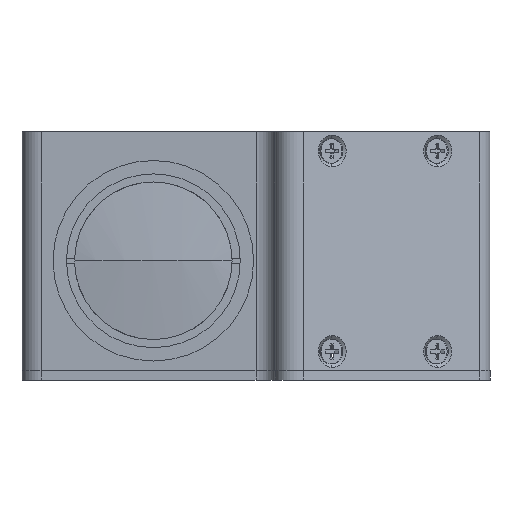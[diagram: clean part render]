
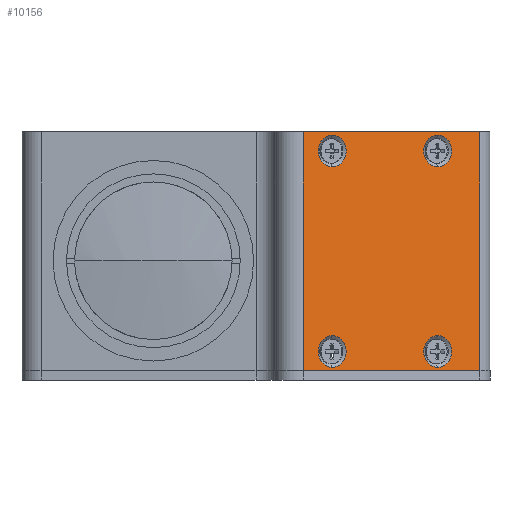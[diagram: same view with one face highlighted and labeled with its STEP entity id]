
A CAD part, left-side view. The second image highlights one B-rep face of the part: STEP entity #10156.
In plain terms, the highlighted planar face has unit normal (-0.883, -0.469, 0).
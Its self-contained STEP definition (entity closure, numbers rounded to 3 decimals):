
#142 = DIRECTION ( 'NONE',  ( -0.883, -0.469, 0. ) ) ;
#251 = CARTESIAN_POINT ( 'NONE',  ( 47.909, -37.475, -15.7 ) ) ;
#256 = VERTEX_POINT ( 'NONE', #5920 ) ;
#287 = DIRECTION ( 'NONE',  ( 0., 0., 1. ) ) ;
#793 = EDGE_LOOP ( 'NONE', ( #5437, #2643, #1070, #14541 ) ) ;
#1024 = LINE ( 'NONE', #7011, #6845 ) ;
#1053 = CARTESIAN_POINT ( 'NONE',  ( 59.646, -59.548, -22.3 ) ) ;
#1062 = CARTESIAN_POINT ( 'NONE',  ( 44.651, -31.348, 27. ) ) ;
#1070 = ORIENTED_EDGE ( 'NONE', *, *, #12367, .F. ) ;
#1165 = AXIS2_PLACEMENT_3D ( 'NONE', #6794, #14560, #7933 ) ;
#1501 = EDGE_CURVE ( 'NONE', #11396, #6871, #14543, .T. ) ;
#1873 = EDGE_CURVE ( 'NONE', #6871, #11396, #13341, .T. ) ;
#2071 = VERTEX_POINT ( 'NONE', #10510 ) ;
#2074 = FACE_BOUND ( 'NONE', #12156, .T. ) ;
#2490 = AXIS2_PLACEMENT_3D ( 'NONE', #6124, #13922, #7263 ) ;
#2643 = ORIENTED_EDGE ( 'NONE', *, *, #13052, .T. ) ;
#2861 = LINE ( 'NONE', #12365, #14570 ) ;
#3258 = CIRCLE ( 'NONE', #8563, 3.3 ) ;
#3827 = DIRECTION ( 'NONE',  ( -0.883, -0.469, 0. ) ) ;
#3882 = PLANE ( 'NONE',  #6388 ) ;
#3942 = VERTEX_POINT ( 'NONE', #12677 ) ;
#3985 = DIRECTION ( 'NONE',  ( 0., 0., 1. ) ) ;
#4013 = VERTEX_POINT ( 'NONE', #7230 ) ;
#4062 = VERTEX_POINT ( 'NONE', #5069 ) ;
#4090 = ORIENTED_EDGE ( 'NONE', *, *, #8780, .F. ) ;
#4156 = CARTESIAN_POINT ( 'NONE',  ( 59.646, -59.548, -15.7 ) ) ;
#4169 = DIRECTION ( 'NONE',  ( -0.883, -0.469, 0. ) ) ;
#4563 = CIRCLE ( 'NONE', #13795, 3.3 ) ;
#4654 = ORIENTED_EDGE ( 'NONE', *, *, #1873, .F. ) ;
#4664 = VERTEX_POINT ( 'NONE', #1053 ) ;
#4736 = CARTESIAN_POINT ( 'NONE',  ( 59.646, -59.548, 23. ) ) ;
#4903 = VECTOR ( 'NONE', #3985, 1000. ) ;
#4909 = EDGE_CURVE ( 'NONE', #4013, #8238, #3258, .T. ) ;
#5069 = CARTESIAN_POINT ( 'NONE',  ( 47.909, -37.475, 19.7 ) ) ;
#5437 = ORIENTED_EDGE ( 'NONE', *, *, #5532, .F. ) ;
#5505 = AXIS2_PLACEMENT_3D ( 'NONE', #13891, #7235, #287 ) ;
#5532 = EDGE_CURVE ( 'NONE', #3942, #2071, #2861, .T. ) ;
#5691 = EDGE_LOOP ( 'NONE', ( #10092, #7414 ) ) ;
#5694 = VECTOR ( 'NONE', #8359, 1000. ) ;
#5920 = CARTESIAN_POINT ( 'NONE',  ( 64.341, -68.378, 27. ) ) ;
#5964 = DIRECTION ( 'NONE',  ( 0., 0., 1. ) ) ;
#6124 = CARTESIAN_POINT ( 'NONE',  ( 47.909, -37.475, 23. ) ) ;
#6297 = CARTESIAN_POINT ( 'NONE',  ( 54.554, -49.971, 2. ) ) ;
#6388 = AXIS2_PLACEMENT_3D ( 'NONE', #6297, #14085, #7436 ) ;
#6394 = CARTESIAN_POINT ( 'NONE',  ( 64.341, -68.378, 2. ) ) ;
#6432 = DIRECTION ( 'NONE',  ( -0.883, -0.469, 0. ) ) ;
#6594 = EDGE_CURVE ( 'NONE', #7917, #4664, #4563, .T. ) ;
#6794 = CARTESIAN_POINT ( 'NONE',  ( 59.646, -59.548, 23. ) ) ;
#6845 = VECTOR ( 'NONE', #9298, 1000. ) ;
#6871 = VERTEX_POINT ( 'NONE', #10416 ) ;
#6978 = EDGE_LOOP ( 'NONE', ( #4654, #8819 ) ) ;
#7011 = CARTESIAN_POINT ( 'NONE',  ( 44.651, -31.348, 2. ) ) ;
#7089 = CARTESIAN_POINT ( 'NONE',  ( 59.646, -59.548, -19. ) ) ;
#7103 = AXIS2_PLACEMENT_3D ( 'NONE', #11093, #4169, #12202 ) ;
#7230 = CARTESIAN_POINT ( 'NONE',  ( 47.909, -37.475, -22.3 ) ) ;
#7235 = DIRECTION ( 'NONE',  ( -0.883, -0.469, 0. ) ) ;
#7263 = DIRECTION ( 'NONE',  ( 0., 0., 1. ) ) ;
#7414 = ORIENTED_EDGE ( 'NONE', *, *, #14226, .F. ) ;
#7436 = DIRECTION ( 'NONE',  ( 0., 0., 1. ) ) ;
#7521 = EDGE_LOOP ( 'NONE', ( #12169, #4090 ) ) ;
#7917 = VERTEX_POINT ( 'NONE', #4156 ) ;
#7933 = DIRECTION ( 'NONE',  ( 0., 0., 1. ) ) ;
#7960 = AXIS2_PLACEMENT_3D ( 'NONE', #4736, #12699, #5964 ) ;
#8072 = VERTEX_POINT ( 'NONE', #1062 ) ;
#8229 = DIRECTION ( 'NONE',  ( 0., 0., 1. ) ) ;
#8238 = VERTEX_POINT ( 'NONE', #251 ) ;
#8359 = DIRECTION ( 'NONE',  ( 0.469, -0.883, 0. ) ) ;
#8563 = AXIS2_PLACEMENT_3D ( 'NONE', #13127, #6432, #14207 ) ;
#8716 = LINE ( 'NONE', #10611, #5694 ) ;
#8780 = EDGE_CURVE ( 'NONE', #4664, #7917, #11678, .T. ) ;
#8819 = ORIENTED_EDGE ( 'NONE', *, *, #1501, .F. ) ;
#8868 = EDGE_CURVE ( 'NONE', #8238, #4013, #13523, .T. ) ;
#8963 = FACE_BOUND ( 'NONE', #7521, .T. ) ;
#9298 = DIRECTION ( 'NONE',  ( 0., 0., -1. ) ) ;
#9835 = EDGE_CURVE ( 'NONE', #8072, #2071, #1024, .T. ) ;
#10092 = ORIENTED_EDGE ( 'NONE', *, *, #12627, .F. ) ;
#10156 = ADVANCED_FACE ( 'NONE', ( #11286, #8963, #2074, #11626, #13813 ), #3882, .T. ) ;
#10416 = CARTESIAN_POINT ( 'NONE',  ( 59.646, -59.548, 26.3 ) ) ;
#10510 = CARTESIAN_POINT ( 'NONE',  ( 44.651, -31.348, -23. ) ) ;
#10611 = CARTESIAN_POINT ( 'NONE',  ( 67.582, -74.473, 27. ) ) ;
#10618 = ORIENTED_EDGE ( 'NONE', *, *, #8868, .F. ) ;
#10770 = CARTESIAN_POINT ( 'NONE',  ( 59.646, -59.548, -19. ) ) ;
#11093 = CARTESIAN_POINT ( 'NONE',  ( 47.909, -37.475, 23. ) ) ;
#11284 = CARTESIAN_POINT ( 'NONE',  ( 59.646, -59.548, 19.7 ) ) ;
#11286 = FACE_BOUND ( 'NONE', #6978, .T. ) ;
#11374 = LINE ( 'NONE', #6394, #4903 ) ;
#11396 = VERTEX_POINT ( 'NONE', #11284 ) ;
#11557 = CIRCLE ( 'NONE', #7103, 3.3 ) ;
#11626 = FACE_BOUND ( 'NONE', #5691, .T. ) ;
#11664 = ORIENTED_EDGE ( 'NONE', *, *, #4909, .F. ) ;
#11678 = CIRCLE ( 'NONE', #14033, 3.3 ) ;
#11886 = DIRECTION ( 'NONE',  ( 0., 0., 1. ) ) ;
#12156 = EDGE_LOOP ( 'NONE', ( #10618, #11664 ) ) ;
#12169 = ORIENTED_EDGE ( 'NONE', *, *, #6594, .F. ) ;
#12202 = DIRECTION ( 'NONE',  ( 0., 0., 1. ) ) ;
#12365 = CARTESIAN_POINT ( 'NONE',  ( 67.582, -74.473, -23. ) ) ;
#12367 = EDGE_CURVE ( 'NONE', #8072, #256, #8716, .T. ) ;
#12454 = CARTESIAN_POINT ( 'NONE',  ( 47.909, -37.475, 26.3 ) ) ;
#12627 = EDGE_CURVE ( 'NONE', #13413, #4062, #11557, .T. ) ;
#12677 = CARTESIAN_POINT ( 'NONE',  ( 64.341, -68.378, -23. ) ) ;
#12699 = DIRECTION ( 'NONE',  ( -0.883, -0.469, 0. ) ) ;
#13052 = EDGE_CURVE ( 'NONE', #3942, #256, #11374, .T. ) ;
#13127 = CARTESIAN_POINT ( 'NONE',  ( 47.909, -37.475, -19. ) ) ;
#13341 = CIRCLE ( 'NONE', #1165, 3.3 ) ;
#13413 = VERTEX_POINT ( 'NONE', #12454 ) ;
#13415 = DIRECTION ( 'NONE',  ( -0.469, 0.883, 0. ) ) ;
#13523 = CIRCLE ( 'NONE', #5505, 3.3 ) ;
#13525 = CIRCLE ( 'NONE', #2490, 3.3 ) ;
#13795 = AXIS2_PLACEMENT_3D ( 'NONE', #10770, #3827, #11886 ) ;
#13813 = FACE_OUTER_BOUND ( 'NONE', #793, .T. ) ;
#13891 = CARTESIAN_POINT ( 'NONE',  ( 47.909, -37.475, -19. ) ) ;
#13922 = DIRECTION ( 'NONE',  ( -0.883, -0.469, 0. ) ) ;
#14033 = AXIS2_PLACEMENT_3D ( 'NONE', #7089, #142, #8229 ) ;
#14085 = DIRECTION ( 'NONE',  ( -0.883, -0.469, 0. ) ) ;
#14207 = DIRECTION ( 'NONE',  ( 0., 0., 1. ) ) ;
#14226 = EDGE_CURVE ( 'NONE', #4062, #13413, #13525, .T. ) ;
#14541 = ORIENTED_EDGE ( 'NONE', *, *, #9835, .T. ) ;
#14543 = CIRCLE ( 'NONE', #7960, 3.3 ) ;
#14560 = DIRECTION ( 'NONE',  ( -0.883, -0.469, 0. ) ) ;
#14570 = VECTOR ( 'NONE', #13415, 1000. ) ;
